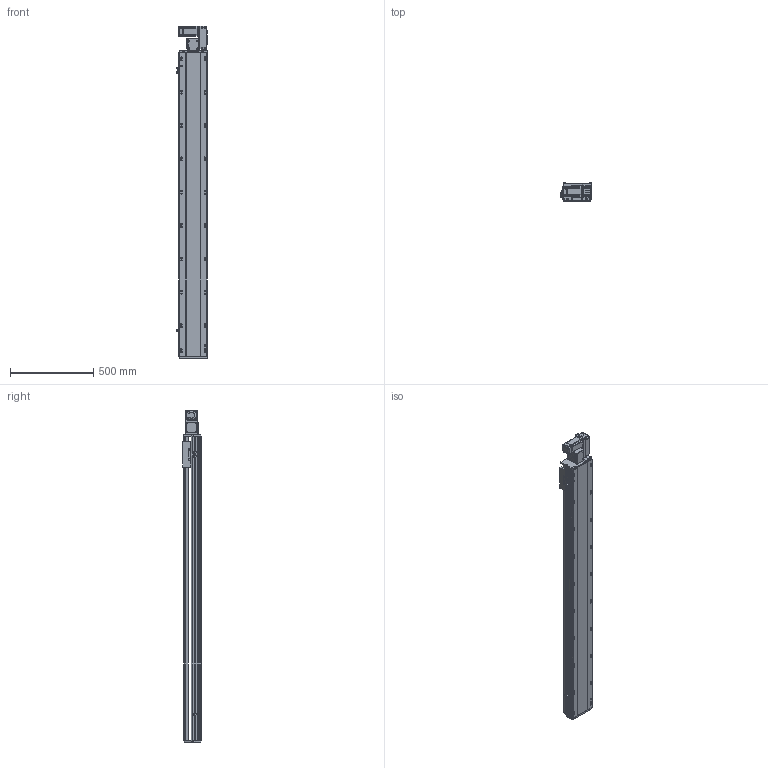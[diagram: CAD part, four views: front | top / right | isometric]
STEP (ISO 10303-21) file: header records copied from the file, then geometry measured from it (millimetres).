
FILE_DESCRIPTION (( 'STEP AP214' ), '1' );
FILE_NAME ('RTB17S-XX-1550-R-M40-C4.STEP', '2025-12-11T07:41:11', ( '' ), ( '' ), 'SwSTEP 2.0', 'SolidWorks 2018', '' );
FILE_SCHEMA (( 'AUTOMOTIVE_DESIGN' ));
Length unit declared in the file: millimetre
Products named in the file (14): RTB14-L-008-M20--萇儂啣^RTB17S-R-々湍釱蚾饜-400W_RTB17S-XX-XX-R-M40-C4; RTB14-L-018P^RTB17S-R-々湍釱蚾饜-400W_RTB17S-XX-XX-R-M40-C4; RTB14-L-005P--轴承塑胶压盖^RTB17S-R-皮带座装配-400W_RTB17S-XX-XX-R-M40-C4; RTB17S-L-004佪裝蹟譫蟀諉釱^RTB17S-XX-XX-R-M40-C4; RTB17S-XX-1550-R-M40-C4; RTB17S-R-々湍釱蚾饜-400W^RTB17S-XX-XX-R-M40-C4; RTB17S-L-007奻裔^RTB17S-XX-XX-R-M40-C4; RTB14-L-017P^RTB17S-R-々湍釱蚾饜-400W_RTB17S-XX-XX-R-M40-C4; RTH13-BL-012覜茼え俋离^RTB17S-XX-XX-R-M40-C4; 400W侜督萇儂^RTB17S-XX-XX-R-M40-C4; RTB17S-L-014-T20--々湍釱^RTB17S-R-々湍釱蚾饜-400W_RTB17S-XX-XX-R-M40-C4; RTB17-R-011菁釱^RTB17S-XX-XX-R-M40-C4; OMRON EE-SX672 传感器^RTB17S-XX-XX-R-M40-C4; RTB17S-L-001耜醱啣^RTB17S-XX-XX-R-M40-C4
Assembly tree (16 placements, depth 3):
  RTB17S-XX-1550-R-M40-C4
    RTB17-R-011菁釱^RTB17S-XX-XX-R-M40-C4
    RTB17S-L-007奻裔^RTB17S-XX-XX-R-M40-C4
    OMRON EE-SX672 传感器^RTB17S-XX-XX-R-M40-C4  x3
    RTB17S-L-001耜醱啣^RTB17S-XX-XX-R-M40-C4
    400W侜督萇儂^RTB17S-XX-XX-R-M40-C4
    RTB17S-L-004佪裝蹟譫蟀諉釱^RTB17S-XX-XX-R-M40-C4
    RTH13-BL-012覜茼え俋离^RTB17S-XX-XX-R-M40-C4
    RTB17S-R-々湍釱蚾饜-400W^RTB17S-XX-XX-R-M40-C4
      RTB17S-L-014-T20--々湍釱^RTB17S-R-々湍釱蚾饜-400W_RTB17S-XX-XX-R-M40-C4
      RTB14-L-005P--轴承塑胶压盖^RTB17S-R-皮带座装配-400W_RTB17S-XX-XX-R-M40-C4
      RTB14-L-008-M20--萇儂啣^RTB17S-R-々湍釱蚾饜-400W_RTB17S-XX-XX-R-M40-C4
      RTB14-L-017P^RTB17S-R-々湍釱蚾饜-400W_RTB17S-XX-XX-R-M40-C4  x2
      RTB14-L-018P^RTB17S-R-々湍釱蚾饜-400W_RTB17S-XX-XX-R-M40-C4
Bounding box: 183.5 x 108 x 1991 mm (x, y, z)
Volume: 16859563.8 mm3; surface area: 1987175.1 mm2
Topology: 15 solids, 15 shells, 2253 faces, 6249 edges, 4077 vertices
Faces by surface type: plane 1074, cylinder 731, bspline 301, cone 139, torus 8
Entity records: 64937 total; most frequent: CARTESIAN_POINT 18254, ORIENTED_EDGE 9342, DIRECTION 8666, EDGE_CURVE 4671, VERTEX_POINT 3065, AXIS2_PLACEMENT_3D 2995, VECTOR 2676, LINE 2676
